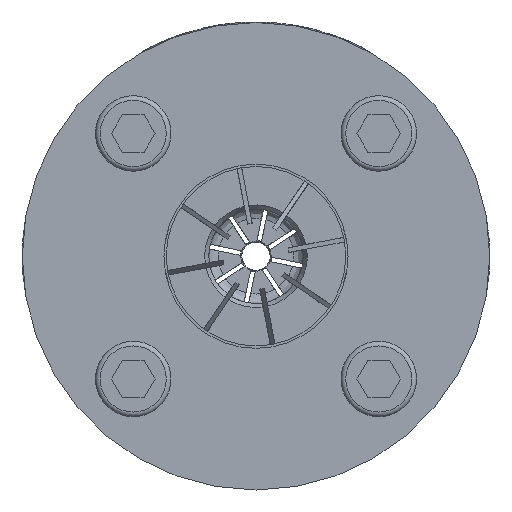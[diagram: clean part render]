
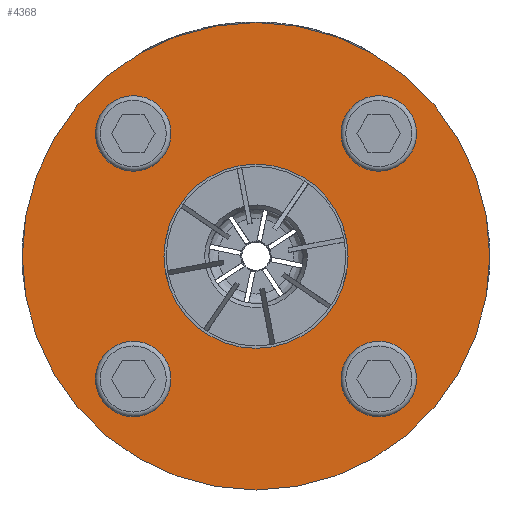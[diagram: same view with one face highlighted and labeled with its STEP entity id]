
A CAD part, front view. The second image highlights one B-rep face of the part: STEP entity #4368.
In plain terms, the highlighted planar face has unit normal (0, -1, 0).
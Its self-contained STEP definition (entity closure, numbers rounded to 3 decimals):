
#200 = CARTESIAN_POINT ( 'NONE',  ( -26., 0., 26. ) ) ;
#750 = ORIENTED_EDGE ( 'NONE', *, *, #1591, .T. ) ;
#1567 = DIRECTION ( 'NONE',  ( 0., 0., -1. ) ) ;
#1591 = EDGE_CURVE ( 'NONE', #23338, #23338, #11625, .T. ) ;
#1625 = AXIS2_PLACEMENT_3D ( 'NONE', #29593, #22408, #17563 ) ;
#2189 = FACE_BOUND ( 'NONE', #9186, .T. ) ;
#2796 = CARTESIAN_POINT ( 'NONE',  ( 0., 0., 49.5 ) ) ;
#3043 = DIRECTION ( 'NONE',  ( 0., -1., 0. ) ) ;
#4020 = EDGE_CURVE ( 'NONE', #28180, #28180, #26748, .T. ) ;
#4368 = ADVANCED_FACE ( 'NONE', ( #14228, #18785, #23635, #2189, #11101, #30176 ), #8742, .F. ) ;
#4627 = CARTESIAN_POINT ( 'NONE',  ( 26., 0., -26. ) ) ;
#6610 = DIRECTION ( 'NONE',  ( 0., -1., 0. ) ) ;
#6983 = ORIENTED_EDGE ( 'NONE', *, *, #23465, .F. ) ;
#7238 = EDGE_CURVE ( 'NONE', #21747, #21747, #27019, .T. ) ;
#7460 = EDGE_LOOP ( 'NONE', ( #27240 ) ) ;
#7855 = AXIS2_PLACEMENT_3D ( 'NONE', #24506, #3043, #12583 ) ;
#8742 = PLANE ( 'NONE',  #20746 ) ;
#9161 = AXIS2_PLACEMENT_3D ( 'NONE', #10367, #12555, #1567 ) ;
#9186 = EDGE_LOOP ( 'NONE', ( #13763 ) ) ;
#9375 = CARTESIAN_POINT ( 'NONE',  ( 0., 0., -49.5 ) ) ;
#10367 = CARTESIAN_POINT ( 'NONE',  ( -26., 0., -26. ) ) ;
#10582 = EDGE_CURVE ( 'NONE', #19855, #19855, #21238, .T. ) ;
#11101 = FACE_BOUND ( 'NONE', #13255, .T. ) ;
#11625 = CIRCLE ( 'NONE', #1625, 49.5 ) ;
#11877 = DIRECTION ( 'NONE',  ( 0., -1., 0. ) ) ;
#12555 = DIRECTION ( 'NONE',  ( 0., -1., 0. ) ) ;
#12583 = DIRECTION ( 'NONE',  ( 0., 0., -1. ) ) ;
#13231 = DIRECTION ( 'NONE',  ( 0., 0., -1. ) ) ;
#13255 = EDGE_LOOP ( 'NONE', ( #6983 ) ) ;
#13763 = ORIENTED_EDGE ( 'NONE', *, *, #4020, .F. ) ;
#14228 = FACE_BOUND ( 'NONE', #14969, .T. ) ;
#14512 = EDGE_CURVE ( 'NONE', #22354, #22354, #27169, .T. ) ;
#14969 = EDGE_LOOP ( 'NONE', ( #17911 ) ) ;
#15158 = CARTESIAN_POINT ( 'NONE',  ( 0., 0., -19.5 ) ) ;
#15231 = AXIS2_PLACEMENT_3D ( 'NONE', #20890, #6610, #13231 ) ;
#15318 = CARTESIAN_POINT ( 'NONE',  ( -26., 0., -32. ) ) ;
#16104 = VERTEX_POINT ( 'NONE', #16716 ) ;
#16716 = CARTESIAN_POINT ( 'NONE',  ( 26., 0., 20. ) ) ;
#16755 = CARTESIAN_POINT ( 'NONE',  ( 26., 0., -32. ) ) ;
#17563 = DIRECTION ( 'NONE',  ( 0., 0., -1. ) ) ;
#17911 = ORIENTED_EDGE ( 'NONE', *, *, #10582, .F. ) ;
#18785 = FACE_BOUND ( 'NONE', #22019, .T. ) ;
#18988 = DIRECTION ( 'NONE',  ( 0., -1., 0. ) ) ;
#19855 = VERTEX_POINT ( 'NONE', #15158 ) ;
#20746 = AXIS2_PLACEMENT_3D ( 'NONE', #2796, #24398, #26590 ) ;
#20890 = CARTESIAN_POINT ( 'NONE',  ( 0., 0., 0. ) ) ;
#21238 = CIRCLE ( 'NONE', #15231, 19.5 ) ;
#21393 = CIRCLE ( 'NONE', #7855, 6. ) ;
#21747 = VERTEX_POINT ( 'NONE', #21909 ) ;
#21909 = CARTESIAN_POINT ( 'NONE',  ( -26., 0., 20. ) ) ;
#22019 = EDGE_LOOP ( 'NONE', ( #28815 ) ) ;
#22354 = VERTEX_POINT ( 'NONE', #15318 ) ;
#22408 = DIRECTION ( 'NONE',  ( 0., -1., 0. ) ) ;
#23338 = VERTEX_POINT ( 'NONE', #9375 ) ;
#23465 = EDGE_CURVE ( 'NONE', #16104, #16104, #21393, .T. ) ;
#23635 = FACE_BOUND ( 'NONE', #7460, .T. ) ;
#23944 = DIRECTION ( 'NONE',  ( 0., 0., -1. ) ) ;
#24147 = DIRECTION ( 'NONE',  ( 0., 0., -1. ) ) ;
#24398 = DIRECTION ( 'NONE',  ( 0., 1., 0. ) ) ;
#24506 = CARTESIAN_POINT ( 'NONE',  ( 26., 0., 26. ) ) ;
#25343 = EDGE_LOOP ( 'NONE', ( #750 ) ) ;
#26590 = DIRECTION ( 'NONE',  ( 0., 0., 1. ) ) ;
#26748 = CIRCLE ( 'NONE', #30719, 6. ) ;
#27019 = CIRCLE ( 'NONE', #29031, 6. ) ;
#27169 = CIRCLE ( 'NONE', #9161, 6. ) ;
#27240 = ORIENTED_EDGE ( 'NONE', *, *, #14512, .F. ) ;
#28180 = VERTEX_POINT ( 'NONE', #16755 ) ;
#28815 = ORIENTED_EDGE ( 'NONE', *, *, #7238, .F. ) ;
#29031 = AXIS2_PLACEMENT_3D ( 'NONE', #200, #18988, #24147 ) ;
#29593 = CARTESIAN_POINT ( 'NONE',  ( 0., 0., 0. ) ) ;
#30176 = FACE_OUTER_BOUND ( 'NONE', #25343, .T. ) ;
#30719 = AXIS2_PLACEMENT_3D ( 'NONE', #4627, #11877, #23944 ) ;
